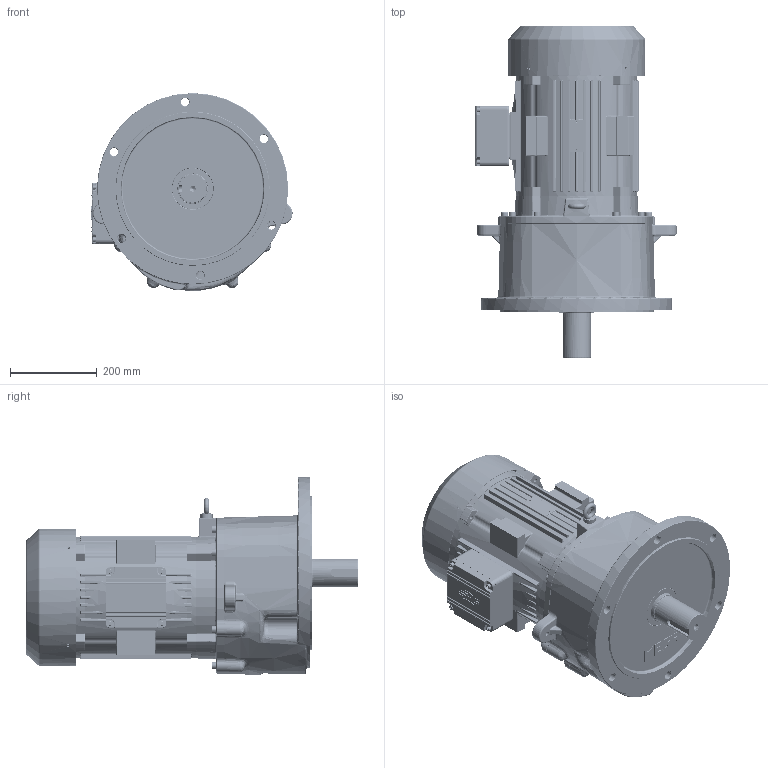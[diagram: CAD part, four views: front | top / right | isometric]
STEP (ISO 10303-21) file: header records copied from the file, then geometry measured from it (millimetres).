
FILE_DESCRIPTION(/* description */ (''),/* implementation_level */ '2;1');
FILE_NAME(/* name */ 'Z:\동력 3D 파일\PMK235_11kW_3D.stp',/* time_stamp */ '2021-12-01T15:46:25+09:00',/* author */ ('jaebok'),/* organization */ (''),/* preprocessor_version */ 'ST-DEVELOPER v18.1',/* originating_system */ 'Autodesk Inventor 2022',/* authorisation */ '');
FILE_SCHEMA (('AUTOMOTIVE_DESIGN { 1 0 10303 214 3 1 1 }'));
Products named in the file (1): 부품32
Bounding box: 462.82 x 764.2 x 455.2 mm (x, y, z)
Volume: 17419327 mm3; surface area: 2675462 mm2
Topology: 2 solids, 20 shells, 6277 faces, 15885 edges, 9510 vertices
Faces by surface type: cylinder 1756, plane 1738, bspline 1631, torus 617, sphere 306, cone 229
Full cylindrical faces by diameter (mm): 3.242 x4, 4.134 x4, 4.917 x9, 5 x13, 6 x4, 6.5 x8, 6.647 x9, 7 x1, 8 x4, 8.376 x1, 9.5 x4, 10 x20, 10.106 x10, 12 x9, 13 x8, 13.2 x1, 13.835 x2, 15 x1, 16 x8, 19 x6, 20 x1, 28 x1, 34 x1, 37 x1, 40 x1, 50 x1, 55 x1, 65 x1, 68 x2, 70 x5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
Entity records: 233218 total; most frequent: CARTESIAN_POINT 85006, ORIENTED_EDGE 31100, DIRECTION 27365, EDGE_CURVE 15550, AXIS2_PLACEMENT_3D 10429, VERTEX_POINT 9512, EDGE_LOOP 6822, LINE 6507
